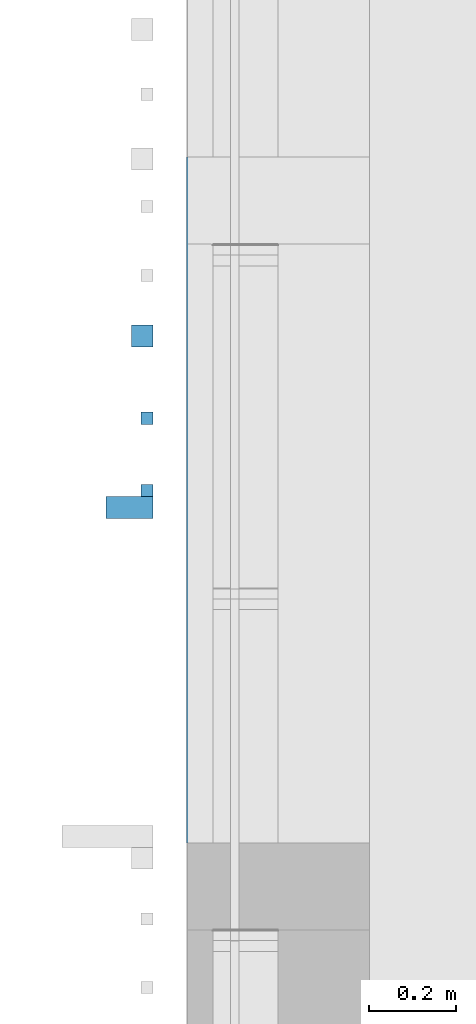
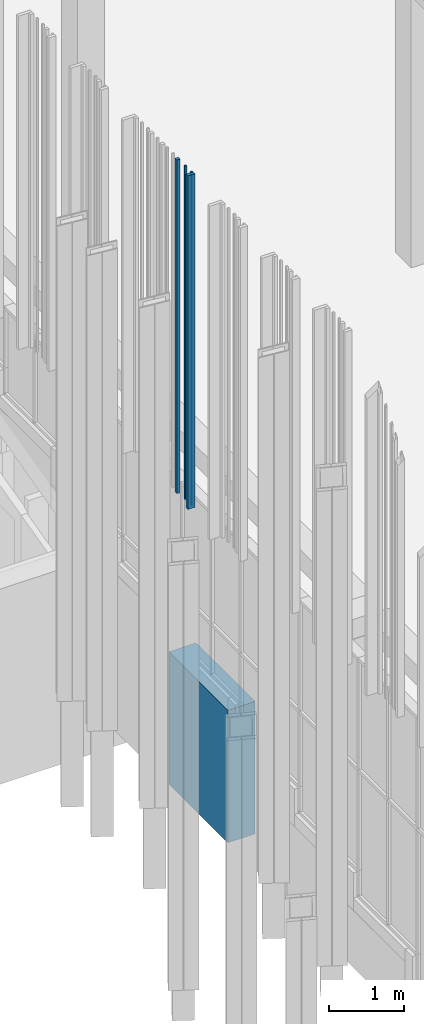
# One storey, part 112 of 390: 5 walls.
"""IFC2X3 building model written with IfcOpenShell, lengths in millimetres."""

from ifc_helpers import new_model, entity, si_unit, converted_unit, derived_unit, money_unit, direction, frame, origin_with_axes, place, context, subcontext, project, spatial, faceted_brep, material, material_list, type_object, element, save


model = new_model("IFC2X3")

# Units and contexts
model_context = context("Model", 3, precision=1e-05, world=origin_with_axes(), true_north=direction((0.0, 1.0)))
body_context = subcontext(model_context, "Body", "Model", "MODEL_VIEW")
ifc_project = project(units=[si_unit("LENGTHUNIT", "METRE", prefix="MILLI"), si_unit("AREAUNIT", "SQUARE_METRE"), si_unit("VOLUMEUNIT", "CUBIC_METRE"), converted_unit("PLANEANGLEUNIT", "DEGREE", entity("IfcPlaneAngleMeasure", 0.0174532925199), si_unit("PLANEANGLEUNIT", "RADIAN"), dimensions=[0, 0, 0, 0, 0, 0, 0]), si_unit("SOLIDANGLEUNIT", "STERADIAN"), money_unit("EUR"), converted_unit("TIMEUNIT", "Year", entity("IfcTimeMeasure", 31556926.0), si_unit("TIMEUNIT", "SECOND"), dimensions=[0, 0, 1, 0, 0, 0, 0]), si_unit("MASSUNIT", "GRAM", prefix="KILO"), si_unit("THERMODYNAMICTEMPERATUREUNIT", "DEGREE_CELSIUS"), si_unit("LUMINOUSINTENSITYUNIT", "LUMEN"), si_unit("ENERGYUNIT", "JOULE", prefix="MEGA"), derived_unit("THERMALCONDUCTANCEUNIT", [(si_unit("POWERUNIT", "WATT"), 1), (si_unit("LENGTHUNIT", "METRE"), -1), (si_unit("THERMODYNAMICTEMPERATUREUNIT", "KELVIN"), -1)]), derived_unit("SPECIFICHEATCAPACITYUNIT", [(si_unit("ENERGYUNIT", "JOULE"), 1), (si_unit("MASSUNIT", "GRAM", prefix="KILO"), -1), (si_unit("THERMODYNAMICTEMPERATUREUNIT", "KELVIN"), -1)]), derived_unit("MASSDENSITYUNIT", [(si_unit("MASSUNIT", "GRAM", prefix="KILO"), 1), (si_unit("VOLUMEUNIT", "CUBIC_METRE"), -1)])], contexts=[model_context])

# Site, building, storey
site_placement = place(None, origin_with_axes())
site = spatial("IfcSite", under=ifc_project, at=site_placement, Name="Site", CompositionType="ELEMENT")
building_placement = place(site_placement, origin_with_axes())
building = spatial("IfcBuilding", under=site, at=building_placement, Name="Building", CompositionType="ELEMENT")
storey_placement = place(building_placement, origin_with_axes())
storey = spatial("IfcBuildingStorey", under=building, at=storey_placement, Name="1 korrus", CompositionType="ELEMENT", Elevation=0.0)

# Walls
ifc_material_1 = material(Name="Membraan - Veekindel")
ifc_material_2 = material(Name="Soojustus - Plastik Kõva")
ifc_material_3 = material(Name="Raudbetoon - Konstruktsioon")
ifc_material_4 = material(Name="Krohv - Lubjakivi")
ifc_material_list = material_list([ifc_material_1, ifc_material_1, ifc_material_2, ifc_material_2, ifc_material_3, ifc_material_4])
wall_type_1 = type_object("IfcWallType", Name="VS-03", PredefinedType="NOTDEFINED")
wall_1_placement = place(storey_placement, frame((122909.999995, 54937.5685601, -620.0), z_axis=(0.0, 0.0, 1.0), x_axis=(0.0, 1.0, 0.0)))
element("IfcWall", 1, at=wall_1_placement, inside=storey, type_object=wall_type_1, material=ifc_material_list, Name="VS-03", context=body_context, shape_type="Brep", body=[
    faceted_brep([(1574.99999999, 420.000000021, 0.0), (1574.99999999, 415.000000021, 0.0), (-5.563549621e-09, 415.0, 0.0), (-5.62749846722e-09, 420.0, 0.0), (1574.99999999, 420.000000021, 2160.0), (1574.99999999, 415.000000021, 2160.0), (-5.563549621e-09, 415.0, 2160.0), (-5.62749846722e-09, 420.0, 2160.0)], [[[0, 1, 2, 3]], [[0, 4, 5, 1]], [[1, 5, 6, 2]], [[3, 2, 6, 7]], [[4, 0, 3, 7]], [[5, 4, 7, 6]]]),
    faceted_brep([(1574.99999999, 415.000000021, 0.0), (1574.99999999, 410.000000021, 0.0), (-5.49249534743e-09, 410.0, 0.0), (-5.563549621e-09, 415.0, 0.0), (1574.99999999, 415.000000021, 2160.0), (1574.99999999, 410.000000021, 2160.0), (-5.49249534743e-09, 410.0, 2160.0), (-5.563549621e-09, 415.0, 2160.0)], [[[0, 1, 2, 3]], [[0, 4, 5, 1]], [[1, 5, 6, 2]], [[3, 2, 6, 7]], [[4, 0, 3, 7]], [[5, 4, 7, 6]]]),
    faceted_brep([(1574.99999999, 410.000000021, 0.0), (1575.0, 360.000000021, 0.0), (-4.82458517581e-09, 360.0, 0.0), (-5.49249534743e-09, 410.0, 0.0), (1574.99999999, 410.000000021, 2160.0), (1575.0, 360.000000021, 2160.0), (-4.82458517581e-09, 360.0, 2160.0), (-5.49249534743e-09, 410.0, 2160.0)], [[[0, 1, 2, 3]], [[0, 4, 5, 1]], [[1, 5, 6, 2]], [[3, 2, 6, 7]], [[4, 0, 3, 7]], [[5, 4, 7, 6]]]),
    faceted_brep([(1575.0, 360.000000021, 0.0), (1575.0, 210.000000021, 0.0), (-2.81374923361e-09, 210.0, 0.0), (-4.82458517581e-09, 360.0, 0.0), (1575.0, 360.000000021, 2160.0), (1575.0, 210.000000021, 2160.0), (-2.81374923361e-09, 210.0, 2160.0), (-4.82458517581e-09, 360.0, 2160.0)], [[[0, 1, 2, 3]], [[0, 4, 5, 1]], [[1, 5, 6, 2]], [[3, 2, 6, 7]], [[4, 0, 3, 7]], [[5, 4, 7, 6]]]),
    faceted_brep([(1575.0, 210.000000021, 0.0), (1575.0, 10.0000000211, 0.0), (-1.35003119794e-10, 10.0, 0.0), (-2.81374923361e-09, 210.0, 0.0), (1575.0, 210.000000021, 2160.0), (1575.0, 10.0000000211, 2160.0), (-1.35003119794e-10, 10.0, 2160.0), (-2.81374923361e-09, 210.0, 2160.0)], [[[0, 1, 2, 3]], [[0, 4, 5, 1]], [[1, 5, 6, 2]], [[3, 2, 6, 7]], [[4, 0, 3, 7]], [[5, 4, 7, 6]]]),
    faceted_brep([(1575.0, 10.0000000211, 0.0), (1575.0, 2.11173301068e-08, 0.0), (0.0, 0.0, 0.0), (-1.35003119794e-10, 10.0, 0.0), (1575.0, 10.0000000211, 2160.0), (1575.0, 2.11173301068e-08, 2160.0), (0.0, 0.0, 2160.0), (-1.35003119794e-10, 10.0, 2160.0)], [[[0, 1, 2, 3]], [[0, 4, 5, 1]], [[1, 5, 6, 2]], [[3, 2, 6, 7]], [[4, 0, 3, 7]], [[5, 4, 7, 6]]]),
])
ifc_material_5 = material(Name="Site specified")
wall_type_2 = type_object("IfcWallType", Name="Puitfassaadi ribistik", PredefinedType="NOTDEFINED")
wall_2_placement = place(storey_placement, frame((122387.999996, 56101.9997856, 4424.99966101), z_axis=(0.0, 0.0, 1.0), x_axis=(0.0, 1.0, 0.0)))
element("IfcWall", 2, at=wall_2_placement, inside=storey, type_object=wall_type_2, material=ifc_material_5, Name="Site specified", context=body_context, shape_type="Brep", body=[
    faceted_brep([(-25.0, -25.0, 5440.00033899), (-25.0, -25.0, 0.0), (25.0, -25.0, 0.0), (25.0, -25.0, 5440.00033899), (-25.0, 25.0, 5440.00033899), (-25.0, 25.0, 0.0), (25.0, 25.0, 0.0), (25.0, 25.0, 5440.00033899)], [[[0, 1, 2, 3]], [[4, 5, 1, 0]], [[2, 1, 5, 6]], [[3, 2, 6, 7]], [[4, 0, 3, 7]], [[7, 6, 5, 4]]]),
])
wall_3_placement = place(storey_placement, frame((122398.999996, 55912.9997856, 4424.99966101), z_axis=(0.0, 0.0, 1.0), x_axis=(0.0, 1.0, 0.0)))
element("IfcWall", 3, at=wall_3_placement, inside=storey, type_object=wall_type_2, material=ifc_material_5, Name="Site specified", context=body_context, shape_type="Brep", body=[
    faceted_brep([(-14.0, -14.0, 5440.00033899), (-14.0, -14.0, 0.0), (14.0, -14.0, 0.0), (14.0, -14.0, 5440.00033899), (-14.0, 14.0, 5440.00033899), (-14.0, 14.0, 0.0), (14.0, 14.0, 0.0), (14.0, 14.0, 5440.00033899)], [[[0, 1, 2, 3]], [[4, 5, 1, 0]], [[2, 1, 5, 6]], [[3, 2, 6, 7]], [[4, 0, 3, 7]], [[7, 6, 5, 4]]]),
])
wall_4_placement = place(storey_placement, frame((122398.999996, 55747.0000097, 4424.99966101), z_axis=(0.0, 0.0, 1.0), x_axis=(0.0, 1.0, 0.0)))
element("IfcWall", 4, at=wall_4_placement, inside=storey, type_object=wall_type_2, material=ifc_material_5, Name="Site specified", context=body_context, shape_type="Brep", body=[
    faceted_brep([(14.0, 14.0, 5440.00033899), (14.0, 14.0, 0.0), (-14.0, 14.0, 0.0), (-14.0, 14.0, 5440.00033899), (14.0, -14.0, 5440.00033899), (14.0, -14.0, 0.0), (-14.0, -14.0, 0.0), (-14.0, -14.0, 5440.00033899)], [[[0, 1, 2, 3]], [[4, 5, 1, 0]], [[2, 1, 5, 6]], [[3, 2, 6, 7]], [[4, 0, 3, 7]], [[7, 6, 5, 4]]]),
])
wall_5_placement = place(storey_placement, frame((122358.499996, 55708.0000097, 4424.99966101), z_axis=(0.0, 0.0, 1.0), x_axis=(0.0, 1.0, 0.0)))
element("IfcWall", 5, at=wall_5_placement, inside=storey, type_object=wall_type_2, material=ifc_material_5, Name="Site specified", context=body_context, shape_type="Brep", body=[
    faceted_brep([(25.0, 54.5, 5440.00033899), (25.0, 54.5, 0.0), (-25.0, 54.5, 0.0), (-25.0, 54.5, 5440.00033899), (25.0, -54.5, 5440.00033899), (25.0, -54.5, 0.0), (-25.0, -54.5, 0.0), (-25.0, -54.5, 5440.00033899)], [[[0, 1, 2, 3]], [[4, 5, 1, 0]], [[2, 1, 5, 6]], [[3, 2, 6, 7]], [[4, 0, 3, 7]], [[7, 6, 5, 4]]]),
])

save(model, "model.ifc")
